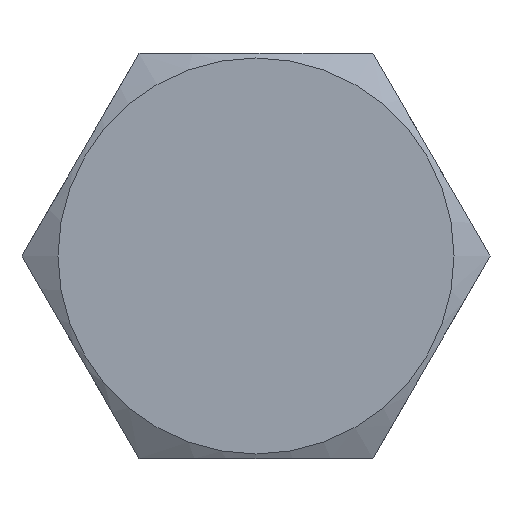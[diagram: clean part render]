
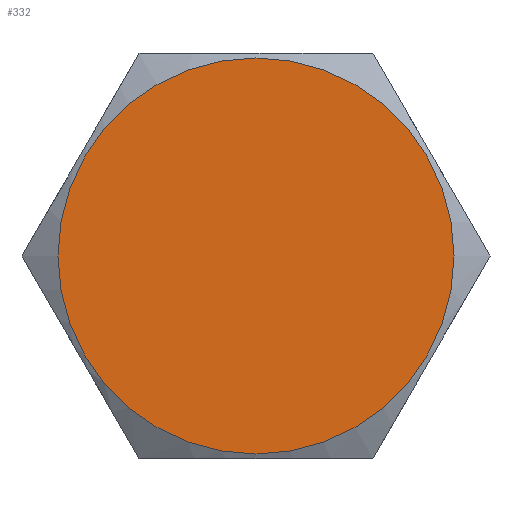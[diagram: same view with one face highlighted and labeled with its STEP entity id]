
A CAD part, front view. The second image highlights one B-rep face of the part: STEP entity #332.
In plain terms, the highlighted planar face has unit normal (0, -1, 0).
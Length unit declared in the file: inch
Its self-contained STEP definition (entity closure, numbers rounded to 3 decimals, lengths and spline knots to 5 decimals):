
#49=PLANE('',#381);
#100=FACE_OUTER_BOUND('',#123,.T.);
#123=EDGE_LOOP('',(#303));
#140=CIRCLE('',#380,0.27456);
#172=VERTEX_POINT('',#625);
#217=EDGE_CURVE('',#172,#172,#140,.T.);
#303=ORIENTED_EDGE('',*,*,#217,.F.);
#332=ADVANCED_FACE('',(#100),#49,.T.);
#380=AXIS2_PLACEMENT_3D('',#626,#462,#463);
#381=AXIS2_PLACEMENT_3D('',#628,#465,#466);
#462=DIRECTION('center_axis',(0.,1.,0.));
#463=DIRECTION('ref_axis',(0.,0.,1.));
#465=DIRECTION('center_axis',(0.,-1.,0.));
#466=DIRECTION('ref_axis',(0.,0.,-1.));
#625=CARTESIAN_POINT('',(0.,0.,-0.27456));
#626=CARTESIAN_POINT('Origin',(0.,0.,0.));
#628=CARTESIAN_POINT('Origin',(0.,0.,0.));
